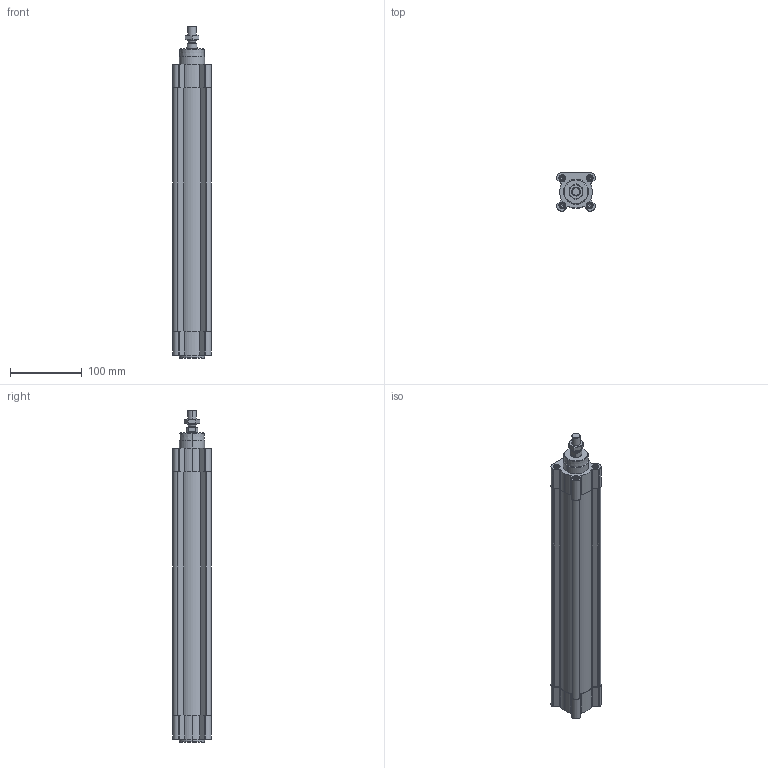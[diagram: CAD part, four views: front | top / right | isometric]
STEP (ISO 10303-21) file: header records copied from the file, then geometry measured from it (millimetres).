
FILE_DESCRIPTION (( 'STEP AP203' ), '1' );
FILE_NAME ('CPME40-300.STEP', '2024-05-23T11:03:49', ( '' ), ( '' ), 'SwSTEP 2.0', 'SolidWorks 2019', '' );
FILE_SCHEMA (( 'CONFIG_CONTROL_DESIGN' ));
Length unit declared in the file: millimetre
Products named in the file (1): CPME40-300
Bounding box: 54 x 54 x 461.9 mm (x, y, z)
Volume: 573940.9 mm3; surface area: 193006.4 mm2
Topology: 3 solids, 3 shells, 629 faces, 1625 edges, 1030 vertices
Faces by surface type: plane 319, cylinder 196, cone 106, torus 8
Entity records: 19673 total; most frequent: CARTESIAN_POINT 4365, ORIENTED_EDGE 3218, DIRECTION 3129, EDGE_CURVE 1609, AXIS2_PLACEMENT_3D 1113, VERTEX_POINT 1030, VECTOR 903, LINE 903
